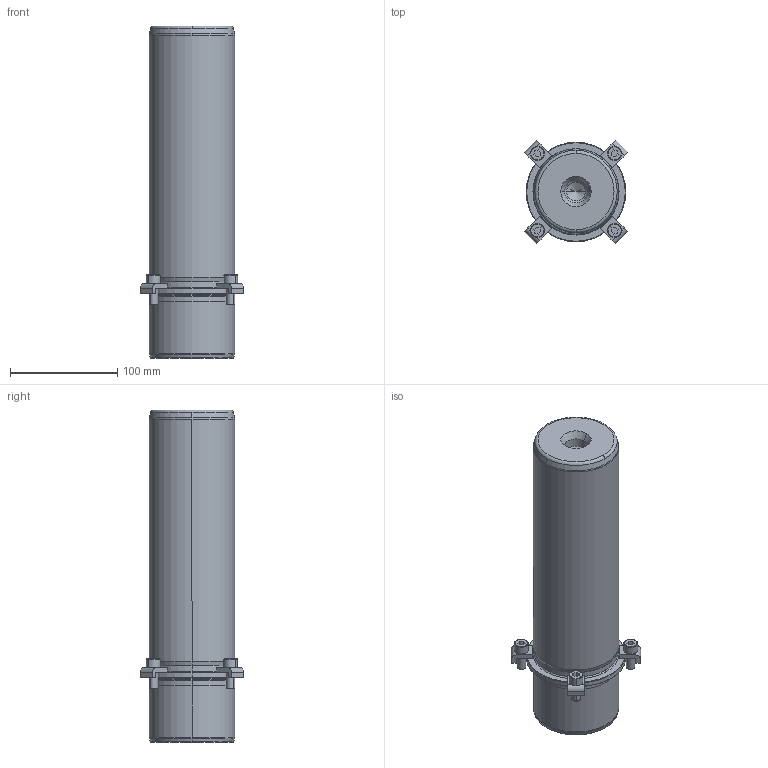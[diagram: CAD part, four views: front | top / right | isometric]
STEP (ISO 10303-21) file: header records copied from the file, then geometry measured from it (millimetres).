
FILE_DESCRIPTION((''),'2;1');
FILE_NAME('P21_080_250.stp','2008-12-19T11:25:47',(''),(''),'Mechanical Desktop 2009','Mechanical Desktop 2009',', , ');
FILE_SCHEMA(('CONFIG_CONTROL_DESIGN'));
Length unit declared in the file: millimetre
Products named in the file (2): Product; blmdl1
Assembly tree (1 placements, depth 2):
  Product
    blmdl1
Bounding box: 96.52 x 96.52 x 310 mm (x, y, z)
Volume: 1543771.3 mm3; surface area: 105759.5 mm2
Topology: 9 solids, 9 shells, 195 faces, 477 edges, 309 vertices
Faces by surface type: plane 77, cylinder 52, cone 34, torus 16, bspline 16
Entity records: 6547 total; most frequent: CARTESIAN_POINT 1683, DIRECTION 1078, ORIENTED_EDGE 946, EDGE_CURVE 473, AXIS2_PLACEMENT_3D 424, VERTEX_POINT 309, CIRCLE 243, VECTOR 230
